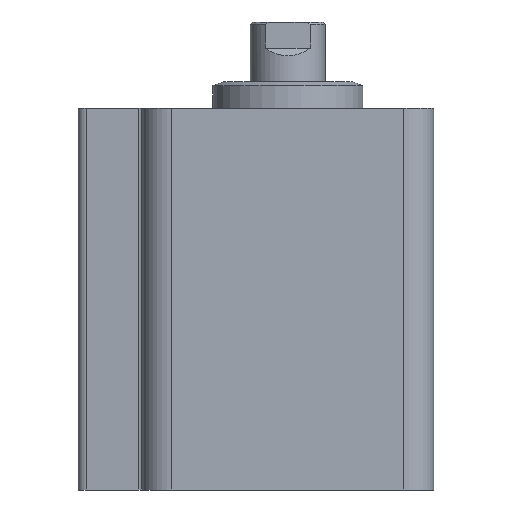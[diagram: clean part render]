
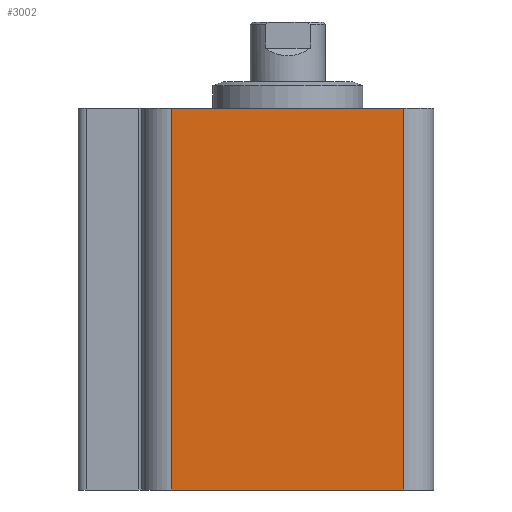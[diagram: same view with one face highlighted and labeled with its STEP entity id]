
A CAD part, left-side view. The second image highlights one B-rep face of the part: STEP entity #3002.
In plain terms, the highlighted planar face has unit normal (-1, 0, 0).
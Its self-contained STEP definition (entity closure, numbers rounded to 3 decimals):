
#351=DIRECTION('',(0.,-1.,0.));
#352=VECTOR('',#351,31.);
#353=CARTESIAN_POINT('',(-18.5,15.5,-51.));
#354=LINE('',#353,#352);
#1023=DIRECTION('',(0.,-1.,0.));
#1024=VECTOR('',#1023,31.);
#1025=CARTESIAN_POINT('',(-18.5,15.5,0.));
#1026=LINE('',#1025,#1024);
#1027=DIRECTION('',(0.,0.,1.));
#1028=VECTOR('',#1027,51.);
#1029=CARTESIAN_POINT('',(-18.5,15.5,-51.));
#1030=LINE('',#1029,#1028);
#1031=DIRECTION('',(0.,0.,1.));
#1032=VECTOR('',#1031,51.);
#1033=CARTESIAN_POINT('',(-18.5,-15.5,-51.));
#1034=LINE('',#1033,#1032);
#1202=CARTESIAN_POINT('',(-18.5,-15.5,0.));
#1204=VERTEX_POINT('',#1202);
#1213=CARTESIAN_POINT('',(-18.5,15.5,0.));
#1215=VERTEX_POINT('',#1213);
#1218=CARTESIAN_POINT('',(-18.5,-15.5,-51.));
#1220=VERTEX_POINT('',#1218);
#1229=CARTESIAN_POINT('',(-18.5,15.5,-51.));
#1231=VERTEX_POINT('',#1229);
#2990=CARTESIAN_POINT('',(-18.5,15.5,0.));
#2991=DIRECTION('',(-1.,0.,0.));
#2992=DIRECTION('',(0.,-1.,0.));
#2993=AXIS2_PLACEMENT_3D('',#2990,#2991,#2992);
#2994=PLANE('',#2993);
#2995=ORIENTED_EDGE('',*,*,#1542,.T.);
#2997=ORIENTED_EDGE('',*,*,#2996,.F.);
#2998=ORIENTED_EDGE('',*,*,#1803,.F.);
#2999=ORIENTED_EDGE('',*,*,#2983,.T.);
#3000=EDGE_LOOP('',(#2995,#2997,#2998,#2999));
#3001=FACE_OUTER_BOUND('',#3000,.F.);
#3002=ADVANCED_FACE('',(#3001),#2994,.T.);
#1542=EDGE_CURVE('',#1215,#1204,#1026,.T.);
#1803=EDGE_CURVE('',#1231,#1220,#354,.T.);
#2983=EDGE_CURVE('',#1231,#1215,#1030,.T.);
#2996=EDGE_CURVE('',#1220,#1204,#1034,.T.);
